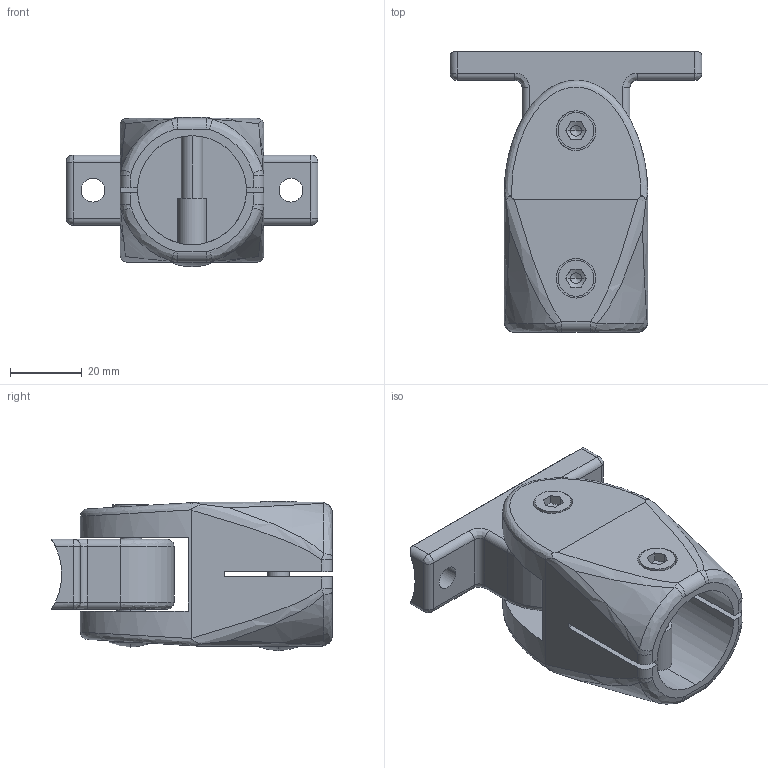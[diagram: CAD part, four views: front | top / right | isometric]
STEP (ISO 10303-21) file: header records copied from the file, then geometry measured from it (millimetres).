
FILE_DESCRIPTION (( 'STEP AP214' ), '1' );
FILE_NAME ('31000410036.STEP', '2024-09-02T09:36:50', ( '' ), ( '' ), 'SwSTEP 2.0', 'SolidWorks 2016', '' );
FILE_SCHEMA (( 'AUTOMOTIVE_DESIGN' ));
Length unit declared in the file: millimetre
Products named in the file (5): 635179_H³lsenmutter; 31000410036; 1715-2_1-Schalig; DIN 6912  (Regelgewinde) M6 x 25; 1715-1_1-Schalig
Assembly tree (6 placements, depth 2):
  31000410036
    1715-1_1-Schalig
    1715-2_1-Schalig
    635179_H³lsenmutter  x2
    DIN 6912  (Regelgewinde) M6 x 25  x2
Bounding box: 70 x 77.99 x 41.5 mm (x, y, z)
Volume: 73903.7 mm3; surface area: 26519.9 mm2
Topology: 6 solids, 6 shells, 192 faces, 486 edges, 304 vertices
Faces by surface type: cylinder 72, plane 54, bspline 38, cone 24, sphere 4
Entity records: 12156 total; most frequent: CARTESIAN_POINT 6799, ORIENTED_EDGE 788, DIRECTION 620, EDGE_CURVE 394, VERTEX_POINT 253, AXIS2_PLACEMENT_3D 242, EDGE_LOOP 175, UNCERTAINTY_MEASURE_WITH_UNIT 168
